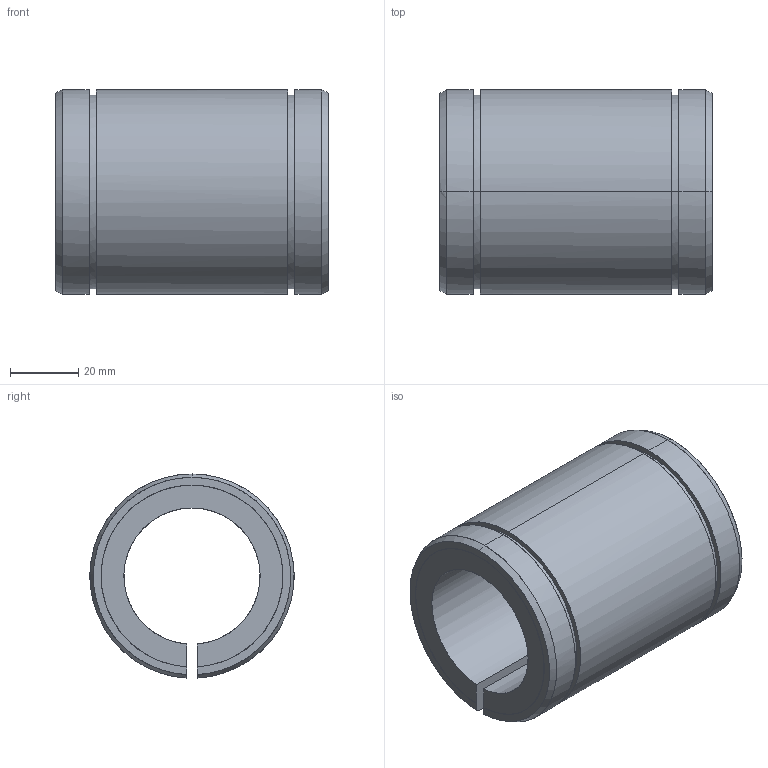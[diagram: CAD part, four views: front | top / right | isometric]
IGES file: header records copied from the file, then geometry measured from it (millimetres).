
Global section: file name: No Iges File Name specified; native system: AutoDesk Inventor R10; preprocessor: AutoDesk Inventor Iges Exporter R10; author: No Author specified; organization: No Organization specified; date: 20101208.100906; units: millimetre
Bounding box: 80 x 59.98 x 59.96 mm (x, y, z)
Surface area: 30088.7 mm2 (no closed solid volume)
Topology: 0 solids, 0 shells, 30 faces, 252 edges, 252 vertices
Faces by surface type: bspline 30
